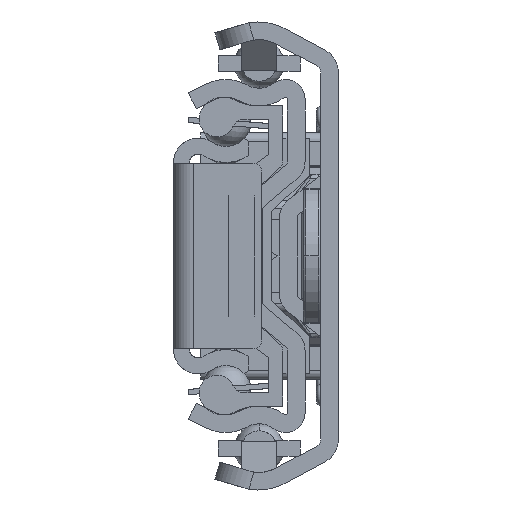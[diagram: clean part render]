
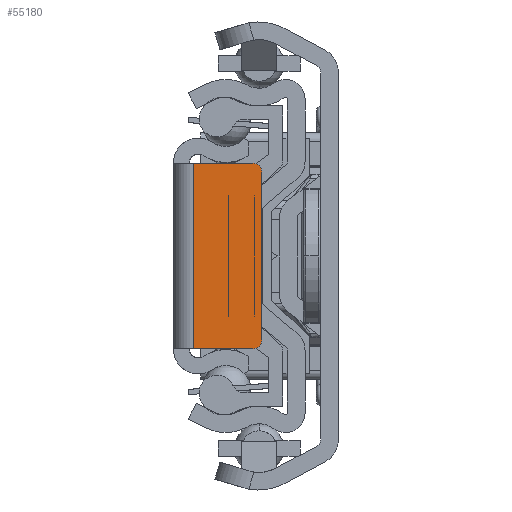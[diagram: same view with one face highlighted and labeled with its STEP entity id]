
A CAD part, left-side view. The second image highlights one B-rep face of the part: STEP entity #55180.
In plain terms, the highlighted planar face has unit normal (-1, 0, 0).
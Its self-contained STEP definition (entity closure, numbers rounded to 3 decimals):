
#50118=DIRECTION('',(0.,-1.,0.));
#50119=VECTOR('',#50118,6.7);
#50120=CARTESIAN_POINT('',(0.,-2.3,10.5));
#50121=LINE('',#50120,#50119);
#50999=DIRECTION('',(0.,-1.,0.));
#51000=VECTOR('',#50999,6.7);
#51001=CARTESIAN_POINT('',(0.,-2.3,-10.5));
#51002=LINE('',#51001,#51000);
#51003=CARTESIAN_POINT('',(0.,-9.,9.5));
#51004=DIRECTION('',(-1.,0.,0.));
#51005=DIRECTION('',(0.,-1.,0.));
#51006=AXIS2_PLACEMENT_3D('',#51003,#51004,#51005);
#51008=CARTESIAN_POINT('',(0.,-9.,-9.5));
#51009=DIRECTION('',(-1.,0.,0.));
#51010=DIRECTION('',(0.,0.,-1.));
#51011=AXIS2_PLACEMENT_3D('',#51008,#51009,#51010);
#51013=DIRECTION('',(0.,0.,1.));
#51014=VECTOR('',#51013,21.);
#51015=CARTESIAN_POINT('',(0.,-2.3,-10.5));
#51016=LINE('',#51015,#51014);
#51025=DIRECTION('',(0.,0.,1.));
#51026=VECTOR('',#51025,19.);
#51027=CARTESIAN_POINT('',(0.,-10.,-9.5));
#51028=LINE('',#51027,#51026);
#53500=CARTESIAN_POINT('',(0.,-2.3,-10.5));
#53501=CARTESIAN_POINT('',(0.,-2.3,10.5));
#53502=VERTEX_POINT('',#53500);
#53503=VERTEX_POINT('',#53501);
#53525=CARTESIAN_POINT('',(0.,-10.,9.5));
#53526=VERTEX_POINT('',#53525);
#53527=CARTESIAN_POINT('',(0.,-9.,10.5));
#53528=VERTEX_POINT('',#53527);
#53529=CARTESIAN_POINT('',(0.,-9.,-10.5));
#53530=CARTESIAN_POINT('',(0.,-10.,-9.5));
#53531=VERTEX_POINT('',#53529);
#53532=VERTEX_POINT('',#53530);
#55165=CARTESIAN_POINT('',(0.,-2.3,-10.5));
#55166=DIRECTION('',(-1.,0.,0.));
#55167=DIRECTION('',(0.,-1.,0.));
#55168=AXIS2_PLACEMENT_3D('',#55165,#55166,#55167);
#55169=PLANE('',#55168);
#55170=ORIENTED_EDGE('',*,*,#54360,.F.);
#55172=ORIENTED_EDGE('',*,*,#55171,.F.);
#55173=ORIENTED_EDGE('',*,*,#55156,.F.);
#55174=ORIENTED_EDGE('',*,*,#55146,.F.);
#55176=ORIENTED_EDGE('',*,*,#55175,.T.);
#55177=ORIENTED_EDGE('',*,*,#54337,.T.);
#55178=EDGE_LOOP('',(#55170,#55172,#55173,#55174,#55176,#55177));
#55179=FACE_OUTER_BOUND('',#55178,.F.);
#51007=CIRCLE('',#51006,1.);
#51012=CIRCLE('',#51011,1.);
#54337=EDGE_CURVE('',#53503,#53528,#50121,.T.);
#54360=EDGE_CURVE('',#53526,#53528,#51007,.T.);
#55146=EDGE_CURVE('',#53502,#53531,#51002,.T.);
#55156=EDGE_CURVE('',#53531,#53532,#51012,.T.);
#55171=EDGE_CURVE('',#53532,#53526,#51028,.T.);
#55175=EDGE_CURVE('',#53502,#53503,#51016,.T.);
#55180=ADVANCED_FACE('',(#55179),#55169,.T.);
